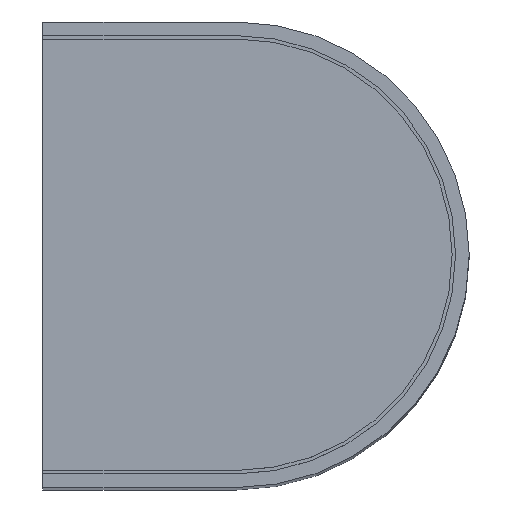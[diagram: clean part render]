
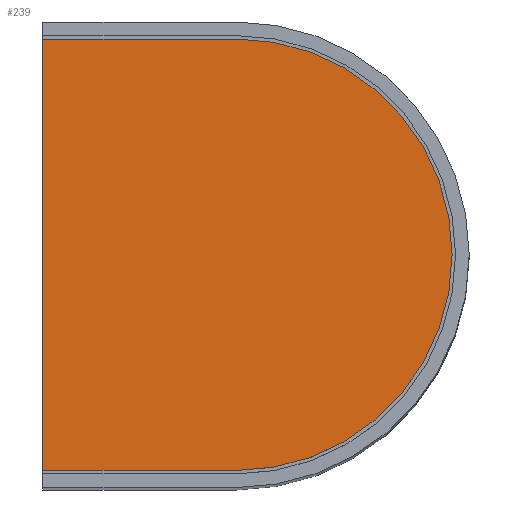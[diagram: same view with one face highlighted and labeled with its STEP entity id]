
A CAD part, top view. The second image highlights one B-rep face of the part: STEP entity #239.
In plain terms, the highlighted planar face has unit normal (0, 0, 1).
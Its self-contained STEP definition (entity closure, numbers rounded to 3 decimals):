
#24 = DIRECTION ( 'NONE',  ( 0., -1., 0. ) ) ;
#37 = ORIENTED_EDGE ( 'NONE', *, *, #220, .T. ) ;
#47 = VERTEX_POINT ( 'NONE', #515 ) ;
#51 = CARTESIAN_POINT ( 'NONE',  ( -125., -63.25, 211.5 ) ) ;
#61 = VERTEX_POINT ( 'NONE', #51 ) ;
#73 = VERTEX_POINT ( 'NONE', #571 ) ;
#121 = ORIENTED_EDGE ( 'NONE', *, *, #610, .T. ) ;
#129 = VECTOR ( 'NONE', #212, 1000. ) ;
#160 = LINE ( 'NONE', #247, #674 ) ;
#162 = LINE ( 'NONE', #701, #129 ) ;
#164 = ORIENTED_EDGE ( 'NONE', *, *, #673, .T. ) ;
#177 = EDGE_CURVE ( 'NONE', #73, #609, #162, .T. ) ;
#183 = CARTESIAN_POINT ( 'NONE',  ( -68.25, 0., 211.5 ) ) ;
#194 = CARTESIAN_POINT ( 'NONE',  ( -125., 63.25, 211.5 ) ) ;
#208 = AXIS2_PLACEMENT_3D ( 'NONE', #183, #348, #700 ) ;
#212 = DIRECTION ( 'NONE',  ( -1., 0., 0. ) ) ;
#216 = ORIENTED_EDGE ( 'NONE', *, *, #177, .T. ) ;
#219 = VECTOR ( 'NONE', #24, 1000. ) ;
#220 = EDGE_CURVE ( 'NONE', #47, #73, #457, .T. ) ;
#239 = ADVANCED_FACE ( 'NONE', ( #340 ), #406, .T. ) ;
#247 = CARTESIAN_POINT ( 'NONE',  ( -125., -63.25, 211.5 ) ) ;
#306 = DIRECTION ( 'NONE',  ( 1., 0., 0. ) ) ;
#340 = FACE_OUTER_BOUND ( 'NONE', #706, .T. ) ;
#348 = DIRECTION ( 'NONE',  ( 0., 0., 1. ) ) ;
#353 = CARTESIAN_POINT ( 'NONE',  ( -68.25, 0., 211.5 ) ) ;
#406 = PLANE ( 'NONE',  #208 ) ;
#456 = AXIS2_PLACEMENT_3D ( 'NONE', #353, #640, #633 ) ;
#457 = CIRCLE ( 'NONE', #456, 63.25 ) ;
#515 = CARTESIAN_POINT ( 'NONE',  ( -68.25, -63.25, 211.5 ) ) ;
#571 = CARTESIAN_POINT ( 'NONE',  ( -68.25, 63.25, 211.5 ) ) ;
#609 = VERTEX_POINT ( 'NONE', #194 ) ;
#610 = EDGE_CURVE ( 'NONE', #61, #47, #160, .T. ) ;
#633 = DIRECTION ( 'NONE',  ( 1., 0., 0. ) ) ;
#640 = DIRECTION ( 'NONE',  ( 0., 0., 1. ) ) ;
#668 = CARTESIAN_POINT ( 'NONE',  ( -125., 63.25, 211.5 ) ) ;
#673 = EDGE_CURVE ( 'NONE', #609, #61, #726, .T. ) ;
#674 = VECTOR ( 'NONE', #306, 1000. ) ;
#700 = DIRECTION ( 'NONE',  ( 1., 0., 0. ) ) ;
#701 = CARTESIAN_POINT ( 'NONE',  ( -68.25, 63.25, 211.5 ) ) ;
#706 = EDGE_LOOP ( 'NONE', ( #216, #164, #121, #37 ) ) ;
#726 = LINE ( 'NONE', #668, #219 ) ;
